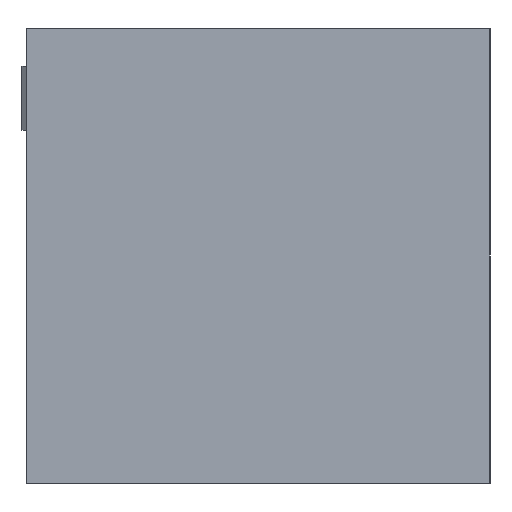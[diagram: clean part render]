
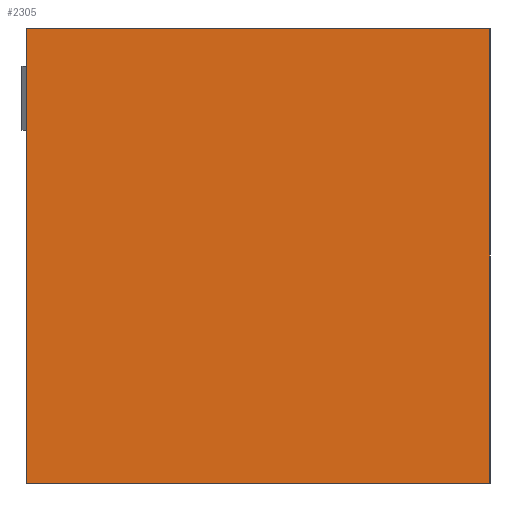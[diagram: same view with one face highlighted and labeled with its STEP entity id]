
A CAD part, left-side view. The second image highlights one B-rep face of the part: STEP entity #2305.
In plain terms, the highlighted planar face has unit normal (-1, 0, 0).
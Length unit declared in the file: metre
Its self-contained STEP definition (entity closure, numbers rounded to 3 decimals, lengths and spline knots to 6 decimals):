
#495=ORIENTED_EDGE('',*,*,#920,.F.);
#496=ORIENTED_EDGE('',*,*,#814,.F.);
#497=ORIENTED_EDGE('',*,*,#919,.F.);
#498=ORIENTED_EDGE('',*,*,#921,.F.);
#814=EDGE_CURVE('',#1062,#1064,#1326,.T.);
#919=EDGE_CURVE('',#1131,#1062,#1431,.T.);
#920=EDGE_CURVE('',#1064,#1132,#1432,.T.);
#921=EDGE_CURVE('',#1132,#1131,#1433,.T.);
#1062=VERTEX_POINT('',#3364);
#1064=VERTEX_POINT('',#3367);
#1131=VERTEX_POINT('',#3575);
#1132=VERTEX_POINT('',#3579);
#1326=LINE('',#3366,#1642);
#1431=LINE('',#3576,#1747);
#1432=LINE('',#3578,#1748);
#1433=LINE('',#3580,#1749);
#1642=VECTOR('',#2768,1.);
#1747=VECTOR('',#2947,1.);
#1748=VECTOR('',#2950,1.);
#1749=VECTOR('',#2951,1.);
#1904=EDGE_LOOP('',(#495,#496,#497,#498));
#2048=FACE_BOUND('',#1904,.T.);
#2182=PLANE('',#2441);
#2305=ADVANCED_FACE('',(#2048),#2182,.T.);
#2441=AXIS2_PLACEMENT_3D('',#3577,#2948,#2949);
#2768=DIRECTION('',(0.,1.,0.));
#2947=DIRECTION('',(0.,0.,-1.));
#2948=DIRECTION('',(-1.,0.,0.));
#2949=DIRECTION('',(0.,-1.,0.));
#2950=DIRECTION('',(0.,0.,1.));
#2951=DIRECTION('',(0.,-1.,0.));
#3364=CARTESIAN_POINT('',(0.14795,-0.08795,0.001595));
#3366=CARTESIAN_POINT('',(0.14795,-0.08795,0.001595));
#3367=CARTESIAN_POINT('',(0.14795,-0.08295,0.001595));
#3575=CARTESIAN_POINT('',(0.14795,-0.08795,0.006495));
#3576=CARTESIAN_POINT('',(0.14795,-0.08795,0.006495));
#3577=CARTESIAN_POINT('',(0.14795,-0.08545,0.004045));
#3578=CARTESIAN_POINT('',(0.14795,-0.08295,0.001595));
#3579=CARTESIAN_POINT('',(0.14795,-0.08295,0.006495));
#3580=CARTESIAN_POINT('',(0.14795,-0.08295,0.006495));
